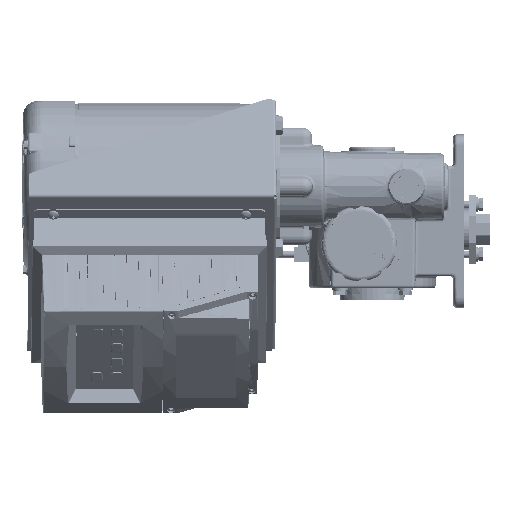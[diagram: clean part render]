
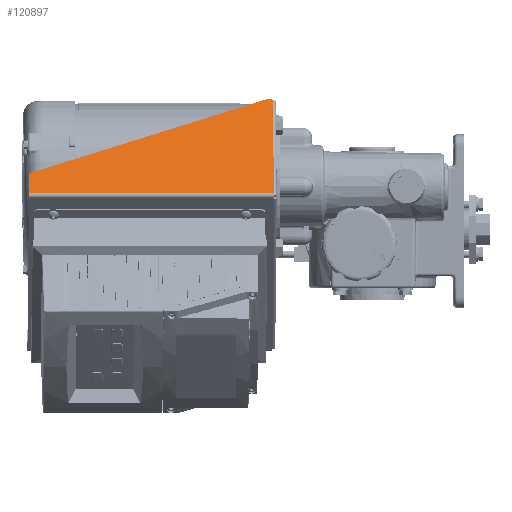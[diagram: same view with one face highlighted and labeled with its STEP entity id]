
A CAD part, left-side view. The second image highlights one B-rep face of the part: STEP entity #120897.
In plain terms, the highlighted planar face has unit normal (-0.707, -0.007, 0.707).
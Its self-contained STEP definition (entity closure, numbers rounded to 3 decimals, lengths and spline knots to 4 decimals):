
#1425 = LINE ( 'NONE', #135173, #6311 ) ;
#4638 = DIRECTION ( 'NONE',  ( 0.707, 0.007, 0.707 ) ) ;
#5381 = DIRECTION ( 'NONE',  ( -0.294, 0.912, -0.285 ) ) ;
#5725 = LINE ( 'NONE', #173528, #165733 ) ;
#6311 = VECTOR ( 'NONE', #66150, 39.3701 ) ;
#29702 = VECTOR ( 'NONE', #5381, 39.3701 ) ;
#36072 = EDGE_CURVE ( 'NONE', #214029, #193920, #1425, .T. ) ;
#37482 = AXIS2_PLACEMENT_3D ( 'NONE', #185500, #54856, #188727 ) ;
#37765 = ORIENTED_EDGE ( 'NONE', *, *, #67127, .T. ) ;
#44730 = DIRECTION ( 'NONE',  ( -0.707, -0.007, -0.707 ) ) ;
#44742 = VERTEX_POINT ( 'NONE', #190615 ) ;
#52209 = EDGE_CURVE ( 'NONE', #44742, #214029, #68278, .T. ) ;
#52884 = EDGE_LOOP ( 'NONE', ( #192527, #64048, #136543, #37765, #60967, #163497 ) ) ;
#52888 = DIRECTION ( 'NONE',  ( -0.01, 1., 0. ) ) ;
#54856 = DIRECTION ( 'NONE',  ( 0.707, 0.007, -0.707 ) ) ;
#60967 = ORIENTED_EDGE ( 'NONE', *, *, #52209, .T. ) ;
#64048 = ORIENTED_EDGE ( 'NONE', *, *, #99041, .T. ) ;
#66150 = DIRECTION ( 'NONE',  ( -0.707, -0.007, -0.707 ) ) ;
#67127 = EDGE_CURVE ( 'NONE', #157374, #44742, #168040, .T. ) ;
#68278 = CIRCLE ( 'NONE', #180327, 0.125 ) ;
#68285 = AXIS2_PLACEMENT_3D ( 'NONE', #197276, #146693, #44730 ) ;
#68296 = CARTESIAN_POINT ( 'NONE',  ( -10.0174, 10.9543, 1.692 ) ) ;
#86660 = FACE_OUTER_BOUND ( 'NONE', #52884, .T. ) ;
#91114 = DIRECTION ( 'NONE',  ( -0.707, -0.007, 0.707 ) ) ;
#99041 = EDGE_CURVE ( 'NONE', #124987, #122058, #5725, .T. ) ;
#102194 = CARTESIAN_POINT ( 'NONE',  ( -6.714, 2.8279, 4.9126 ) ) ;
#102238 = LINE ( 'NONE', #68296, #213508 ) ;
#111748 = CARTESIAN_POINT ( 'NONE',  ( -10.0174, 10.9543, 1.692 ) ) ;
#120897 = ADVANCED_FACE ( 'NONE', ( #86660 ), #150330, .F. ) ;
#122058 = VERTEX_POINT ( 'NONE', #129921 ) ;
#122918 = CARTESIAN_POINT ( 'NONE',  ( -9.395, 10.8357, 2.3131 ) ) ;
#124987 = VERTEX_POINT ( 'NONE', #188839 ) ;
#125341 = CARTESIAN_POINT ( 'NONE',  ( -9.3962, 10.9606, 2.3131 ) ) ;
#127052 = EDGE_CURVE ( 'NONE', #122058, #157374, #211992, .T. ) ;
#129921 = CARTESIAN_POINT ( 'NONE',  ( -6.7931, 2.6516, 4.8318 ) ) ;
#135173 = CARTESIAN_POINT ( 'NONE',  ( -6.8778, 10.9862, 4.8318 ) ) ;
#135577 = EDGE_CURVE ( 'NONE', #124987, #193920, #102238, .T. ) ;
#136543 = ORIENTED_EDGE ( 'NONE', *, *, #127052, .T. ) ;
#146693 = DIRECTION ( 'NONE',  ( -0.707, -0.007, 0.707 ) ) ;
#150330 = PLANE ( 'NONE',  #37482 ) ;
#157374 = VERTEX_POINT ( 'NONE', #192858 ) ;
#163497 = ORIENTED_EDGE ( 'NONE', *, *, #36072, .T. ) ;
#165733 = VECTOR ( 'NONE', #4638, 39.3701 ) ;
#168040 = LINE ( 'NONE', #102194, #29702 ) ;
#173528 = CARTESIAN_POINT ( 'NONE',  ( -6.7931, 2.6516, 4.8318 ) ) ;
#180327 = AXIS2_PLACEMENT_3D ( 'NONE', #122918, #91114, #208616 ) ;
#185500 = CARTESIAN_POINT ( 'NONE',  ( -6.7944, 2.7766, 4.8318 ) ) ;
#188727 = DIRECTION ( 'NONE',  ( -0.707, -0.007, -0.707 ) ) ;
#188839 = CARTESIAN_POINT ( 'NONE',  ( -9.9328, 2.6198, 1.692 ) ) ;
#190615 = CARTESIAN_POINT ( 'NONE',  ( -9.3146, 10.8869, 2.394 ) ) ;
#192527 = ORIENTED_EDGE ( 'NONE', *, *, #135577, .F. ) ;
#192858 = CARTESIAN_POINT ( 'NONE',  ( -6.714, 2.8279, 4.9126 ) ) ;
#193920 = VERTEX_POINT ( 'NONE', #111748 ) ;
#197276 = CARTESIAN_POINT ( 'NONE',  ( -6.7944, 2.7766, 4.8318 ) ) ;
#208616 = DIRECTION ( 'NONE',  ( -0.707, -0.007, -0.707 ) ) ;
#211992 = CIRCLE ( 'NONE', #68285, 0.125 ) ;
#213508 = VECTOR ( 'NONE', #52888, 39.3701 ) ;
#214029 = VERTEX_POINT ( 'NONE', #125341 ) ;
